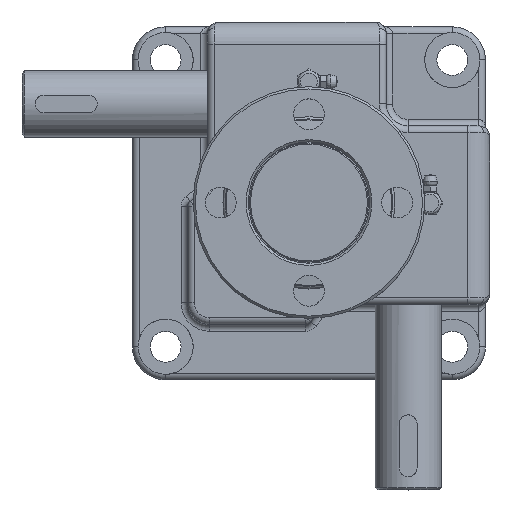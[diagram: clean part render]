
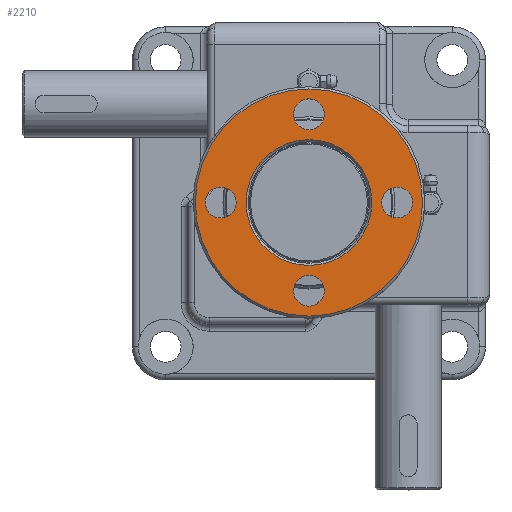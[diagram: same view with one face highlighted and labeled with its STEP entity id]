
A CAD part, top view. The second image highlights one B-rep face of the part: STEP entity #2210.
In plain terms, the highlighted planar face has unit normal (0, 0, 1).
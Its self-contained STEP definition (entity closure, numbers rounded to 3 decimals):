
#2210=ADVANCED_FACE('',(#5559,#5560,#5561,#5562,#5563,#5564),#5565,.T.);
#5559=FACE_OUTER_BOUND('',#11967,.T.);
#5560=FACE_BOUND('',#11968,.T.);
#5561=FACE_BOUND('',#11969,.T.);
#5562=FACE_BOUND('',#11970,.T.);
#5563=FACE_BOUND('',#11971,.T.);
#5564=FACE_BOUND('',#11972,.T.);
#5565=PLANE('',#11973);
#11967=EDGE_LOOP('',(#20270));
#11968=EDGE_LOOP('',(#20271));
#11969=EDGE_LOOP('',(#20272));
#11970=EDGE_LOOP('',(#20273));
#11971=EDGE_LOOP('',(#20274));
#11972=EDGE_LOOP('',(#20275));
#11973=AXIS2_PLACEMENT_3D('',#20276,#20277,#20278);
#20270=ORIENTED_EDGE('',*,*,#43341,.T.);
#20271=ORIENTED_EDGE('',*,*,#43342,.F.);
#20272=ORIENTED_EDGE('',*,*,#43335,.F.);
#20273=ORIENTED_EDGE('',*,*,#43337,.F.);
#20274=ORIENTED_EDGE('',*,*,#43331,.F.);
#20275=ORIENTED_EDGE('',*,*,#43333,.F.);
#20276=CARTESIAN_POINT('',(0.0,0.0,0.0));
#20277=DIRECTION('',(0.,0.,1.0));
#20278=DIRECTION('',(1.0,0.,0.));
#43331=EDGE_CURVE('',#51253,#51253,#51254,.T.);
#43333=EDGE_CURVE('',#51257,#51257,#51258,.T.);
#43335=EDGE_CURVE('',#51261,#51261,#51262,.T.);
#43337=EDGE_CURVE('',#51265,#51265,#51266,.T.);
#43341=EDGE_CURVE('',#51273,#51273,#51274,.T.);
#43342=EDGE_CURVE('',#51275,#51275,#51276,.T.);
#51253=VERTEX_POINT('',#64273);
#51254=CIRCLE('',#64274,7.0);
#51257=VERTEX_POINT('',#64277);
#51258=CIRCLE('',#64278,7.0);
#51261=VERTEX_POINT('',#64281);
#51262=CIRCLE('',#64282,7.0);
#51265=VERTEX_POINT('',#64285);
#51266=CIRCLE('',#64286,7.0);
#51273=VERTEX_POINT('',#64293);
#51274=CIRCLE('',#64294,51.5);
#51275=VERTEX_POINT('',#64295);
#51276=CIRCLE('',#64296,28.5);
#64273=CARTESIAN_POINT('',(47.0,0.,0.));
#64274=AXIS2_PLACEMENT_3D('',#85342,#85343,#85344);
#64277=CARTESIAN_POINT('',(7.0,40.0,0.));
#64278=AXIS2_PLACEMENT_3D('',#85348,#85349,#85350);
#64281=CARTESIAN_POINT('',(-33.0,0.,0.));
#64282=AXIS2_PLACEMENT_3D('',#85354,#85355,#85356);
#64285=CARTESIAN_POINT('',(7.0,-40.0,0.));
#64286=AXIS2_PLACEMENT_3D('',#85360,#85361,#85362);
#64293=CARTESIAN_POINT('',(51.5,0.,0.));
#64294=AXIS2_PLACEMENT_3D('',#85372,#85373,#85374);
#64295=CARTESIAN_POINT('',(28.5,0.,0.));
#64296=AXIS2_PLACEMENT_3D('',#85375,#85376,#85377);
#85342=CARTESIAN_POINT('',(40.0,0.,0.));
#85343=DIRECTION('',(0.,0.,1.0));
#85344=DIRECTION('',(1.0,0.,0.));
#85348=CARTESIAN_POINT('',(0.,40.0,0.));
#85349=DIRECTION('',(0.,0.,1.0));
#85350=DIRECTION('',(1.0,0.,0.));
#85354=CARTESIAN_POINT('',(-40.0,0.0,0.));
#85355=DIRECTION('',(0.,0.,1.0));
#85356=DIRECTION('',(1.0,0.,0.));
#85360=CARTESIAN_POINT('',(0.0,-40.0,0.));
#85361=DIRECTION('',(0.,0.,1.0));
#85362=DIRECTION('',(1.0,0.,0.));
#85372=CARTESIAN_POINT('',(0.,0.,0.0));
#85373=DIRECTION('',(0.,0.,1.0));
#85374=DIRECTION('',(1.0,0.,0.));
#85375=CARTESIAN_POINT('',(0.0,0.,0.));
#85376=DIRECTION('',(0.,0.,1.0));
#85377=DIRECTION('',(1.0,0.,0.));
